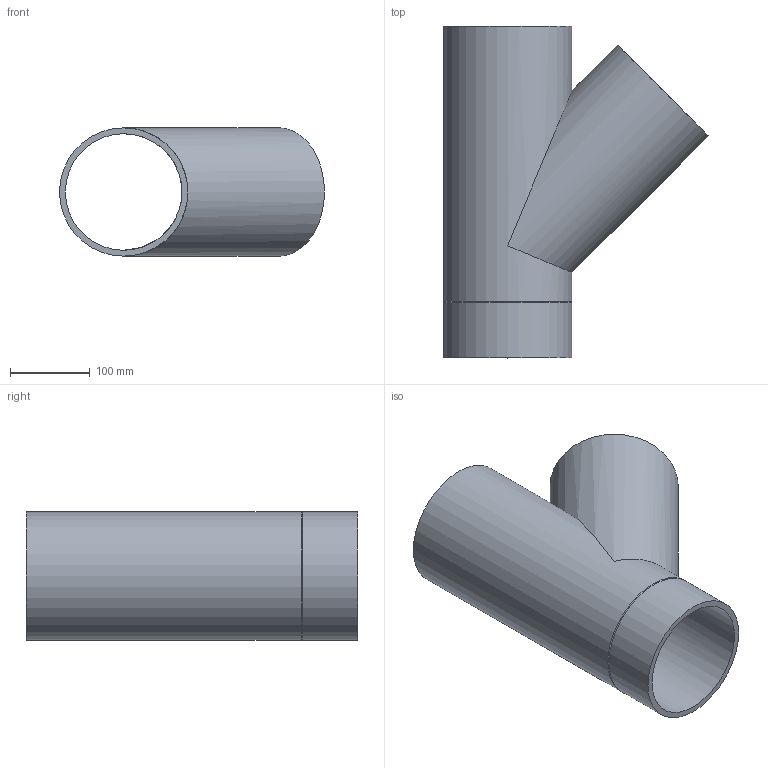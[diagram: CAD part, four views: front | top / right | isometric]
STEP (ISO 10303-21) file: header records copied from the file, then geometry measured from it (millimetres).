
FILE_DESCRIPTION(/* description */ (''),/* implementation_level */ '2;1');
FILE_NAME(/* name */ 'Z:\Geberit\Export\Export18\Abzweig Gerade_Ipart\stp\315144.stp',/* time_stamp */ '2014-08-26T21:52:41+02:00',/* author */ ('ML'),/* organization */ (''),/* preprocessor_version */ 'ST-DEVELOPER v15.2',/* originating_system */ 'Autodesk Inventor 2014',/* authorisation */ '');
FILE_SCHEMA (('AUTOMOTIVE_DESIGN { 1 0 10303 214 3 1 1 }'));
Length unit declared in the file: millimetre
Products named in the file (1): 315144
Bounding box: 331.43 x 415 x 160.47 mm (x, y, z)
Volume: 1951114.1 mm3; surface area: 542437.3 mm2
Topology: 1 solids, 1 shells, 10 faces, 26 edges, 18 vertices
Faces by surface type: cylinder 5, plane 3, cone 2
Full cylindrical faces by diameter (mm): 145.775 x2, 160.475 x3
Entity records: 263 total; most frequent: DIRECTION 48, CARTESIAN_POINT 37, ORIENTED_EDGE 26, AXIS2_PLACEMENT_3D 24, EDGE_LOOP 22, FACE_BOUND 17, VERTEX_POINT 13, EDGE_CURVE 13
